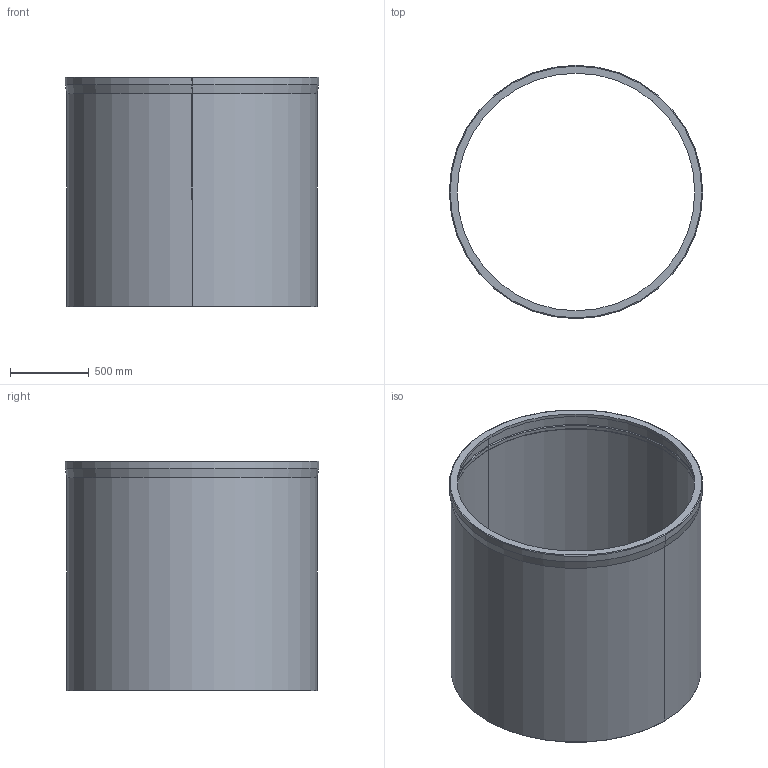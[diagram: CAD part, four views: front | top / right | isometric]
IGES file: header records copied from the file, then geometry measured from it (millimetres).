
Start section:  PTC IGES file: sob_center_cylinder.igs
Global section: file name: sob_center_cylinder.igs; native system: Pro/ENGINEER by Parametric Technology Corporation; preprocessor: 1999260; author: oshatz; organization: Unknown; date: 000922.101710; units: millimetre
Bounding box: 1604 x 1604 x 1456 mm (x, y, z)
Surface area: 14952357 mm2 (no closed solid volume)
Topology: 0 solids, 0 shells, 36 faces, 144 edges, 144 vertices
Faces by surface type: revolution 30, bspline 6
